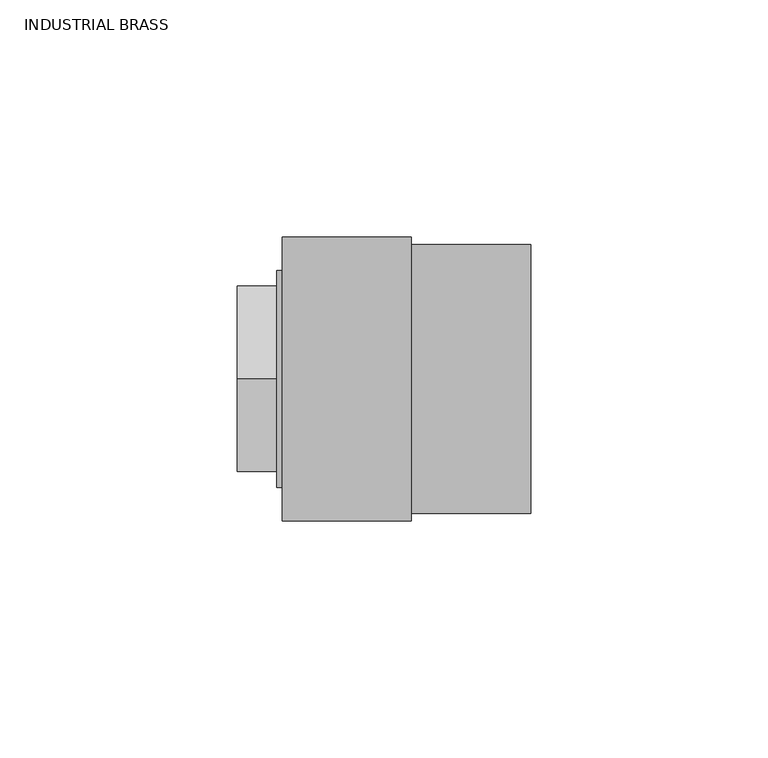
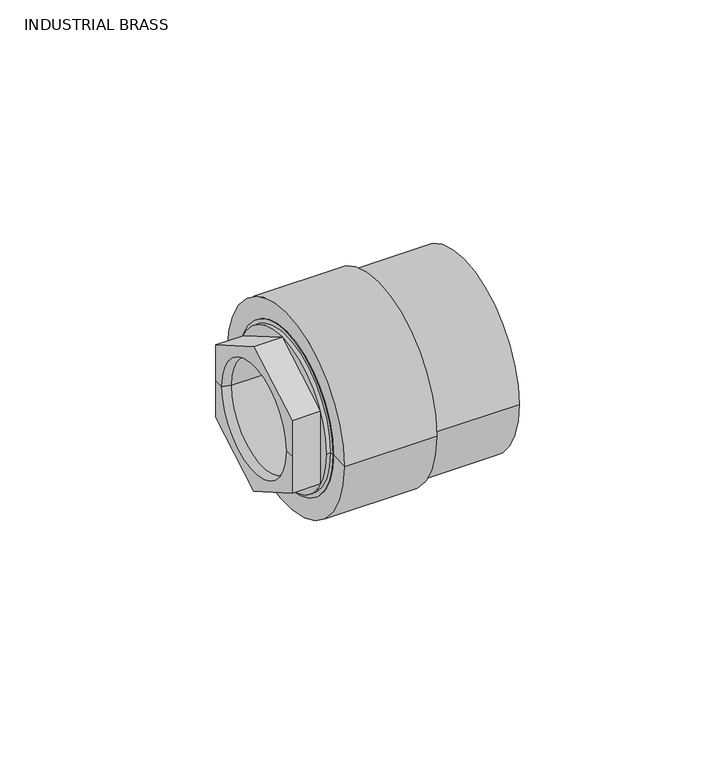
"""IFC4 building model written with IfcOpenShell, lengths in millimetres: valve geometry, Aquatherm - Transition Piece - F HEX : INDUSTRIAL BRASS."""

from ifc_helpers import new_model, si_unit, frame, origin, place, context, project, spatial, polyline, circle_curve, source, transform, mapped, element, save
from ifc_brep_helpers import plane_surface, cylinder_surface, revolved_surface, advanced_brep


def industrial_brass_c424b4aa(model_context):
    return source(origin(), model_context, "Body", "AdvancedBrep", [
        advanced_brep(
        [(7.9375, -15.875, 0.0), (7.9375, 15.875, 0.0), (-6.9453125, 15.875, 0.0), (-6.9453125, -15.875, 0.0), (7.9375, -16.66875, 0.0), (7.9375, 16.66875, 0.0), (11.1125, -16.66875, 0.0), (11.1125, 16.66875, 0.0), (11.1125, -12.7, 0.0), (11.1125, 12.7, 0.0), (14.2875, -12.7, 0.0), (14.2875, 12.7, 0.0), (14.2875, -24.003, 0.0), (14.2875, 24.003, 0.0), (0.0, -24.003, 0.0), (0.0, 24.003, 0.0), (-9.525, -16.66875, 0.0), (-9.525, 16.66875, 0.0), (-9.525, 19.558, 0.0), (-9.525, 19.558, -11.2918166), (-9.525, 0.0, -22.5836331), (-9.525, -19.558, -11.2918166), (-9.525, -19.558, 0.0), (-9.525, -19.558, 11.2918166), (-9.525, 0.0, 22.5836331), (-9.525, 19.558, 11.2918166), (0.0, -22.86, 0.0), (0.0, 22.86, 0.0), (-1.190625, -22.86, 0.0), (-1.190625, 22.86, 0.0), (-1.190625, 0.0, -22.5836331), (-1.190625, 19.558, -11.2918166), (-1.190625, 19.558, 11.2918166), (-1.190625, 0.0, 22.5836331), (-1.190625, -19.558, 11.2918166), (-1.190625, -19.558, -11.2918166)],
        [
            (0, 1, circle_curve(frame((7.9375, 0.0, 0.0), z_axis=(1.0, 0.0, 0.0), x_axis=(0.0, 1.0, 0.0)), 15.875)),
            (1, 2),
            (2, 3, circle_curve(frame((-6.9453125, 0.0, 0.0), z_axis=(-1.0, 0.0, 0.0), x_axis=(0.0, 1.0, 0.0)), 15.875)),
            (3, 0),
            (1, 0, circle_curve(frame((7.9375, 0.0, 0.0), z_axis=(1.0, 0.0, 0.0), x_axis=(0.0, 1.0, 0.0)), 15.875)),
            (3, 2, circle_curve(frame((-6.9453125, 0.0, 0.0), z_axis=(-1.0, 0.0, 0.0), x_axis=(0.0, 1.0, 0.0)), 15.875)),
            (0, 4),
            (4, 5, circle_curve(frame((7.9375, 0.0, 0.0), z_axis=(1.0, 0.0, 0.0), x_axis=(0.0, 1.0, 0.0)), 16.66875)),
            (5, 1),
            (5, 4, circle_curve(frame((7.9375, 0.0, 0.0), z_axis=(1.0, 0.0, 0.0), x_axis=(0.0, 1.0, 0.0)), 16.66875)),
            (4, 6),
            (6, 7, circle_curve(frame((11.1125, 0.0, 0.0), z_axis=(1.0, 0.0, 0.0), x_axis=(0.0, 1.0, 0.0)), 16.66875)),
            (7, 5),
            (7, 6, circle_curve(frame((11.1125, 0.0, 0.0), z_axis=(1.0, 0.0, 0.0), x_axis=(0.0, 1.0, 0.0)), 16.66875)),
            (6, 8),
            (8, 9, circle_curve(frame((11.1125, 0.0, 0.0), z_axis=(1.0, 0.0, 0.0), x_axis=(0.0, 1.0, 0.0)), 12.7)),
            (9, 7),
            (9, 8, circle_curve(frame((11.1125, 0.0, 0.0), z_axis=(1.0, 0.0, 0.0), x_axis=(0.0, 1.0, 0.0)), 12.7)),
            (8, 10),
            (10, 11, circle_curve(frame((14.2875, 0.0, 0.0), z_axis=(1.0, 0.0, 0.0), x_axis=(0.0, 1.0, 0.0)), 12.7)),
            (11, 9),
            (11, 10, circle_curve(frame((14.2875, 0.0, 0.0), z_axis=(1.0, 0.0, 0.0), x_axis=(0.0, 1.0, 0.0)), 12.7)),
            (10, 12),
            (12, 13, circle_curve(frame((14.2875, 0.0, 0.0), z_axis=(1.0, 0.0, 0.0), x_axis=(0.0, 1.0, 0.0)), 24.003)),
            (13, 11),
            (13, 12, circle_curve(frame((14.2875, 0.0, 0.0), z_axis=(1.0, 0.0, 0.0), x_axis=(0.0, 1.0, 0.0)), 24.003)),
            (12, 14),
            (14, 15, circle_curve(frame((0.0, 0.0, 0.0), z_axis=(1.0, 0.0, 0.0), x_axis=(0.0, 1.0, 0.0)), 24.003)),
            (15, 13),
            (15, 14, circle_curve(frame((0.0, 0.0, 0.0), z_axis=(1.0, 0.0, 0.0), x_axis=(0.0, 1.0, 0.0)), 24.003)),
            (16, 17, circle_curve(frame((-9.525, 0.0, 0.0), z_axis=(1.0, 0.0, 0.0), x_axis=(0.0, 1.0, 0.0)), 16.66875)),
            (17, 18),
            (18, 19),
            (19, 20),
            (20, 21),
            (21, 22),
            (22, 16),
            (17, 16, circle_curve(frame((-9.525, 0.0, 0.0), z_axis=(1.0, 0.0, 0.0), x_axis=(0.0, 1.0, 0.0)), 16.66875)),
            (22, 23),
            (23, 24),
            (24, 25),
            (25, 18),
            (2, 17),
            (16, 3),
            (14, 26),
            (26, 27, circle_curve(frame((0.0, 0.0, 0.0), z_axis=(1.0, 0.0, 0.0), x_axis=(0.0, 1.0, 0.0)), 22.86)),
            (27, 15),
            (27, 26, circle_curve(frame((0.0, 0.0, 0.0), z_axis=(1.0, 0.0, 0.0), x_axis=(0.0, 1.0, 0.0)), 22.86)),
            (26, 28),
            (28, 29, circle_curve(frame((-1.190625, 0.0, 0.0), z_axis=(1.0, 0.0, 0.0), x_axis=(0.0, 1.0, 0.0)), 22.86)),
            (29, 27),
            (29, 28, circle_curve(frame((-1.190625, 0.0, 0.0), z_axis=(1.0, 0.0, 0.0), x_axis=(0.0, 1.0, 0.0)), 22.86)),
            (30, 31),
            (31, 32),
            (32, 33),
            (33, 34),
            (34, 35),
            (35, 30),
            (35, 21),
            (20, 30),
            (34, 23),
            (33, 24),
            (32, 25),
            (31, 19),
        ],
        [
            revolved_surface(polyline([(-6.9453125, 15.875, 0.0), (7.937499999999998, 15.875, 0.0)]), (-11.3582251, 0.0, 0.0), (-1.0, 0.0, 0.0)),
            plane_surface(frame((7.9375, 0.0, 0.0), z_axis=(1.0, 0.0, 0.0), x_axis=(0.0, 1.0, 0.0))),
            revolved_surface(polyline([(7.937499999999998, 16.66875, 0.0), (11.112500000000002, 16.66875, 0.0)]), (-11.3582251, 0.0, 0.0), (-1.0, 0.0, 0.0)),
            plane_surface(frame((11.1125, 0.0, 0.0), z_axis=(-1.0, 0.0, 0.0), x_axis=(0.0, 1.0, 0.0))),
            revolved_surface(polyline([(11.112500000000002, 12.7, 0.0), (14.2875, 12.7, 0.0)]), (-11.3582251, 0.0, 0.0), (-1.0, 0.0, 0.0)),
            plane_surface(frame((14.2875, 0.0, 0.0), z_axis=(1.0, 0.0, 0.0), x_axis=(0.0, 1.0, 0.0))),
            cylinder_surface(frame((-11.3582251, 0.0, 0.0), z_axis=(-1.0, 0.0, 0.0), x_axis=(0.0, 1.0, 0.0)), 24.003),
            plane_surface(frame((-9.525, 0.0, 0.0), z_axis=(-1.0, 0.0, 0.0), x_axis=(0.0, 1.0, 0.0))),
            revolved_surface(polyline([(-9.525, 16.66875, 0.0), (-6.9453125, 15.875, 0.0)]), (-11.3582251, 0.0, 0.0), (-1.0, 0.0, 0.0)),
            plane_surface(frame((0.0, 0.0, 0.0), z_axis=(-1.0, 0.0, 0.0), x_axis=(0.0, 1.0, 0.0))),
            cylinder_surface(frame((-11.3582251, 0.0, 0.0), z_axis=(-1.0, 0.0, 0.0), x_axis=(0.0, 1.0, 0.0)), 22.86),
            plane_surface(frame((-1.190625, -19.558, -11.2918166), z_axis=(-1.0000000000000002, 0.0, 0.0), x_axis=(0.0, -0.8660254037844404, 0.4999999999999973))),
            plane_surface(frame((-1.190625, 0.0, -22.5836331), z_axis=(0.0, -0.4999999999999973, -0.8660254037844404), x_axis=(-1.0, 0.0, 0.0))),
            plane_surface(frame((-1.190625, -19.558, -11.2918166), z_axis=(0.0, -1.0, 0.0), x_axis=(-1.0, 0.0, 0.0))),
            plane_surface(frame((-1.190625, -19.558, 11.2918166), z_axis=(0.0, -0.5000000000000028, 0.8660254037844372), x_axis=(-1.0, 0.0, 0.0))),
            plane_surface(frame((-1.190625, 0.0, 22.5836331), z_axis=(0.0, 0.49999999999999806, 0.8660254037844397), x_axis=(-1.0, 0.0, 0.0))),
            plane_surface(frame((-1.190625, 19.558, 11.2918166), z_axis=(0.0, 1.0, 0.0), x_axis=(-1.0, 0.0, 0.0))),
            plane_surface(frame((-1.190625, 19.558, -11.2918166), z_axis=(0.0, 0.5000000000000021, -0.8660254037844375), x_axis=(-1.0, 0.0, 0.0))),
        ],
        [
            (0, [[1, 2, 3, 4]]),
            (0, [[-2, 5, -4, 6]]),
            (1, [[-1, 7, 8, 9]]),
            (1, [[-5, -9, 10, -7]]),
            (2, [[-8, 11, 12, 13]]),
            (2, [[-10, -13, 14, -11]]),
            (3, [[-12, 15, 16, 17]]),
            (3, [[-14, -17, 18, -15]]),
            (4, [[-16, 19, 20, 21]]),
            (4, [[-18, -21, 22, -19]]),
            (5, [[-20, 23, 24, 25]]),
            (5, [[-22, -25, 26, -23]]),
            (6, [[-24, 27, 28, 29]]),
            (6, [[-26, -29, 30, -27]]),
            (7, [[31, 32, 33, 34, 35, 36, 37]]),
            (7, [[38, -37, 39, 40, 41, 42, -32]]),
            (8, [[-3, 43, -31, 44]]),
            (8, [[-6, -44, -38, -43]]),
            (9, [[-28, 45, 46, 47]]),
            (9, [[-30, -47, 48, -45]]),
            (10, [[-46, 49, 50, 51]]),
            (10, [[-48, -51, 52, -49]]),
            (11, [[-50, -52], [53, 54, 55, 56, 57, 58]]),
            (12, [[-58, 59, -35, 60]]),
            (13, [[-57, 61, -39, -36, -59]]),
            (14, [[-56, 62, -40, -61]]),
            (15, [[-55, 63, -41, -62]]),
            (16, [[-54, 64, -33, -42, -63]]),
            (17, [[-53, -60, -34, -64]]),
        ],
    ),
        advanced_brep(
        [(0.0, -29.972, 0.0), (0.0, 29.972, 0.0), (27.178, 29.972, 0.0), (27.178, -29.972, 0.0), (0.0, -24.003, 0.0), (0.0, 24.003, 0.0), (14.2875, -24.003, 0.0), (14.2875, 24.003, 0.0), (14.2875, -12.7, 0.0), (14.2875, 12.7, 0.0), (32.131, -12.7, 0.0), (32.131, 12.7, 0.0), (32.131, -19.939, 0.0), (32.131, 19.939, 0.0), (52.451, -19.939, 0.0), (52.451, 19.939, 0.0), (52.451, -28.3845, 0.0), (52.451, 28.3845, 0.0), (27.178, -28.3845, 0.0), (27.178, 28.3845, 0.0)],
        [
            (0, 1, circle_curve(frame((0.0, 0.0, 0.0), z_axis=(1.0, 0.0, 0.0), x_axis=(0.0, 1.0, 0.0)), 29.972)),
            (1, 2),
            (2, 3, circle_curve(frame((27.178, 0.0, 0.0), z_axis=(-1.0, 0.0, 0.0), x_axis=(0.0, 1.0, 0.0)), 29.972)),
            (3, 0),
            (1, 0, circle_curve(frame((0.0, 0.0, 0.0), z_axis=(1.0, 0.0, 0.0), x_axis=(0.0, 1.0, 0.0)), 29.972)),
            (3, 2, circle_curve(frame((27.178, 0.0, 0.0), z_axis=(-1.0, 0.0, 0.0), x_axis=(0.0, 1.0, 0.0)), 29.972)),
            (4, 5, circle_curve(frame((0.0, 0.0, 0.0), z_axis=(1.0, 0.0, 0.0), x_axis=(0.0, 1.0, 0.0)), 24.003)),
            (5, 1),
            (0, 4),
            (5, 4, circle_curve(frame((0.0, 0.0, 0.0), z_axis=(1.0, 0.0, 0.0), x_axis=(0.0, 1.0, 0.0)), 24.003)),
            (6, 7, circle_curve(frame((14.2875, 0.0, 0.0), z_axis=(1.0, 0.0, 0.0), x_axis=(0.0, 1.0, 0.0)), 24.003)),
            (7, 5),
            (4, 6),
            (7, 6, circle_curve(frame((14.2875, 0.0, 0.0), z_axis=(1.0, 0.0, 0.0), x_axis=(0.0, 1.0, 0.0)), 24.003)),
            (8, 9, circle_curve(frame((14.2875, 0.0, 0.0), z_axis=(1.0, 0.0, 0.0), x_axis=(0.0, 1.0, 0.0)), 12.7)),
            (9, 7),
            (6, 8),
            (9, 8, circle_curve(frame((14.2875, 0.0, 0.0), z_axis=(1.0, 0.0, 0.0), x_axis=(0.0, 1.0, 0.0)), 12.7)),
            (10, 11, circle_curve(frame((32.131, 0.0, 0.0), z_axis=(1.0, 0.0, 0.0), x_axis=(0.0, 1.0, 0.0)), 12.7)),
            (11, 9),
            (8, 10),
            (11, 10, circle_curve(frame((32.131, 0.0, 0.0), z_axis=(1.0, 0.0, 0.0), x_axis=(0.0, 1.0, 0.0)), 12.7)),
            (12, 13, circle_curve(frame((32.131, 0.0, 0.0), z_axis=(1.0, 0.0, 0.0), x_axis=(0.0, 1.0, 0.0)), 19.939)),
            (13, 11),
            (10, 12),
            (13, 12, circle_curve(frame((32.131, 0.0, 0.0), z_axis=(1.0, 0.0, 0.0), x_axis=(0.0, 1.0, 0.0)), 19.939)),
            (14, 15, circle_curve(frame((52.451, 0.0, 0.0), z_axis=(1.0, 0.0, 0.0), x_axis=(0.0, 1.0, 0.0)), 19.939)),
            (15, 13),
            (12, 14),
            (15, 14, circle_curve(frame((52.451, 0.0, 0.0), z_axis=(1.0, 0.0, 0.0), x_axis=(0.0, 1.0, 0.0)), 19.939)),
            (16, 17, circle_curve(frame((52.451, 0.0, 0.0), z_axis=(1.0, 0.0, 0.0), x_axis=(0.0, 1.0, 0.0)), 28.3845)),
            (17, 15),
            (14, 16),
            (17, 16, circle_curve(frame((52.451, 0.0, 0.0), z_axis=(1.0, 0.0, 0.0), x_axis=(0.0, 1.0, 0.0)), 28.3845)),
            (18, 19, circle_curve(frame((27.178, 0.0, 0.0), z_axis=(1.0, 0.0, 0.0), x_axis=(0.0, 1.0, 0.0)), 28.3845)),
            (19, 17),
            (16, 18),
            (19, 18, circle_curve(frame((27.178, 0.0, 0.0), z_axis=(1.0, 0.0, 0.0), x_axis=(0.0, 1.0, 0.0)), 28.3845)),
            (2, 19),
            (18, 3),
        ],
        [
            cylinder_surface(frame((-17.6281162, 0.0, 0.0), z_axis=(-1.0, 0.0, 0.0), x_axis=(0.0, 1.0, 0.0)), 29.972),
            plane_surface(frame((0.0, 0.0, 0.0), z_axis=(-1.0, 0.0, 0.0), x_axis=(0.0, 1.0, 0.0))),
            revolved_surface(polyline([(0.0, 24.003, 0.0), (14.287500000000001, 24.003, 0.0)]), (-17.6281162, 0.0, 0.0), (-1.0, 0.0, 0.0)),
            plane_surface(frame((14.2875, 0.0, 0.0), z_axis=(-1.0, 0.0, 0.0), x_axis=(0.0, 1.0, 0.0))),
            revolved_surface(polyline([(14.287500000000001, 12.7, 0.0), (32.131, 12.7, 0.0)]), (-17.6281162, 0.0, 0.0), (-1.0, 0.0, 0.0)),
            plane_surface(frame((32.131, 0.0, 0.0), z_axis=(1.0, 0.0, 0.0), x_axis=(0.0, 1.0, 0.0))),
            revolved_surface(polyline([(32.131, 19.939, 0.0), (52.451, 19.939, 0.0)]), (-17.6281162, 0.0, 0.0), (-1.0, 0.0, 0.0)),
            plane_surface(frame((52.451, 0.0, 0.0), z_axis=(1.0, 0.0, 0.0), x_axis=(0.0, 1.0, 0.0))),
            cylinder_surface(frame((-17.6281162, 0.0, 0.0), z_axis=(-1.0, 0.0, 0.0), x_axis=(0.0, 1.0, 0.0)), 28.3845),
            plane_surface(frame((27.178, 0.0, 0.0), z_axis=(1.0, 0.0, 0.0), x_axis=(0.0, 1.0, 0.0))),
        ],
        [
            (0, [[1, 2, 3, 4]]),
            (0, [[5, -4, 6, -2]]),
            (1, [[7, 8, -1, 9]]),
            (1, [[10, -9, -5, -8]]),
            (2, [[11, 12, -7, 13]]),
            (2, [[14, -13, -10, -12]]),
            (3, [[15, 16, -11, 17]]),
            (3, [[18, -17, -14, -16]]),
            (4, [[19, 20, -15, 21]]),
            (4, [[22, -21, -18, -20]]),
            (5, [[23, 24, -19, 25]]),
            (5, [[26, -25, -22, -24]]),
            (6, [[27, 28, -23, 29]]),
            (6, [[30, -29, -26, -28]]),
            (7, [[31, 32, -27, 33]]),
            (7, [[34, -33, -30, -32]]),
            (8, [[35, 36, -31, 37]]),
            (8, [[38, -37, -34, -36]]),
            (9, [[-3, 39, -35, 40]]),
            (9, [[-6, -40, -38, -39]]),
        ],
    ),
    ])


if __name__ == "__main__":
    model = new_model("IFC4")
    model_context = context("Model", 3, world=origin())
    ifc_project = project(units=[si_unit("LENGTHUNIT", "METRE", prefix="MILLI")], contexts=[model_context])
    site = spatial("IfcSite", under=ifc_project)
    building = spatial("IfcBuilding", under=site)
    placement = place(None, origin())
    industrial_brass_shape = industrial_brass_c424b4aa(model_context)
    element("IfcValve", 1, ObjectType="Aquatherm - Transition Piece - F HEX : INDUSTRIAL BRASS", at=placement, inside=building, context=model_context, shape_type="MappedRepresentation", body=[
        mapped(industrial_brass_shape, transform((0.0, 0.0, 0.0), x_axis=(1.0, 0.0, 0.0), y_axis=(0.0, 1.0, 0.0), z_axis=(0.0, 0.0, 1.0))),
    ])
    save(model, "model.ifc")
